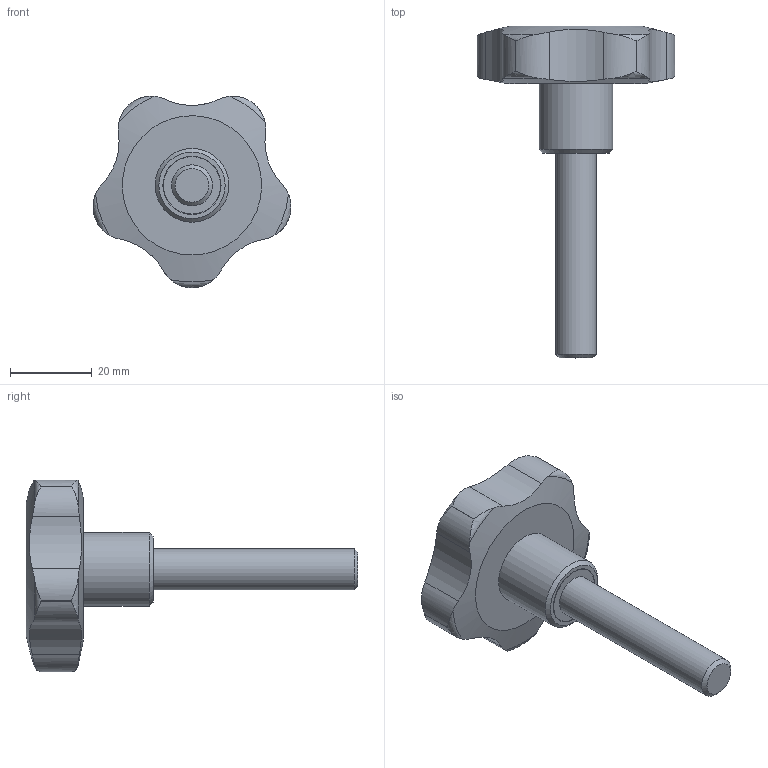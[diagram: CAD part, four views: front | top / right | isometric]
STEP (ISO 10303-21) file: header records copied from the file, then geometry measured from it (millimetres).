
FILE_DESCRIPTION( ( 'STEP AP203' ), '1' );
FILE_NAME( 'C:/Temp/Ganter_Step_05_03_2020/data/2_2/gn_5337_4/gn_5337_4_s/Star knob GN 5337.4-50-M10-50.stp', '2020-03-05T12:09:50', ( 'License CC BY-ND 4.0' ), ( 'CADENAS' ), ' ', 'PARTsolutions', ' ' );
FILE_SCHEMA( ( 'CONFIG_CONTROL_DESIGN' ) );
Length unit declared in the file: millimetre
Products named in the file (1): _Star knob GN 5337.4-50-M10-50
Bounding box: 48.32 x 81 x 46.75 mm (x, y, z)
Volume: 28459.7 mm3; surface area: 7373.7 mm2
Topology: 1 solids, 1 shells, 44 faces, 115 edges, 76 vertices
Faces by surface type: cylinder 24, torus 10, plane 5, cone 3, bspline 1, sphere 1
Full cylindrical faces by diameter (mm): 10 x1, 14 x1, 14.2 x1, 18 x1
Entity records: 1975 total; most frequent: CARTESIAN_POINT 974, ORIENTED_EDGE 204, DIRECTION 172, EDGE_CURVE 102, AXIS2_PLACEMENT_3D 76, VERTEX_POINT 74, EDGE_LOOP 56, B_SPLINE_CURVE_WITH_KNOTS 50
